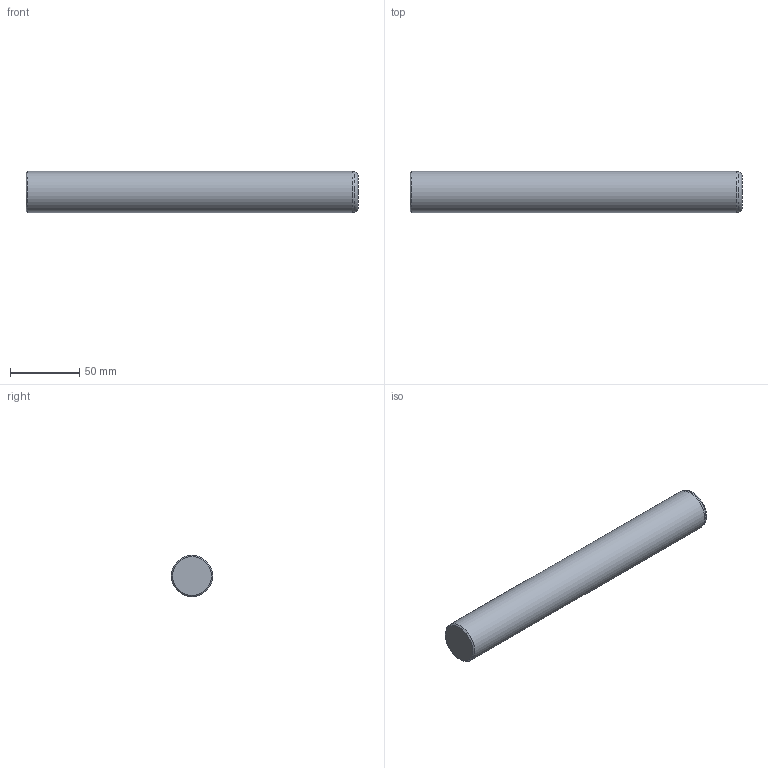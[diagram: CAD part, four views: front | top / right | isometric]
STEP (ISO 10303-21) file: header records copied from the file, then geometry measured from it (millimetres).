
FILE_DESCRIPTION(/* description */ ('Impex Ready, www.impex-ready.pl'),/* implementation_level */ '2;1');
FILE_NAME(/* name */ 'C:\Users\VIKKY\Nextcloud\SM\projekt 10 - części na stronę internetową\Pliki_3D_new\256 CIS Słup\256 CIS_STEP\CIS30240.ipt.step',/* time_stamp */ '2021-12-20T12:43:33+01:00',/* author */ ('SM'),/* organization */ (''),/* preprocessor_version */ 'ST-DEVELOPER v18.1',/* originating_system */ 'Autodesk Inventor 2021',/* authorisation */ '');
FILE_SCHEMA (('AUTOMOTIVE_DESIGN { 1 0 10303 214 3 1 1 }'));
Length unit declared in the file: millimetre
Products named in the file (1): CIS30240
Bounding box: 240 x 30 x 30 mm (x, y, z)
Volume: 169324.9 mm3; surface area: 23819.4 mm2
Topology: 1 solids, 1 shells, 6 faces, 12 edges, 8 vertices
Faces by surface type: cone 2, plane 2, torus 1, cylinder 1
Full cylindrical faces by diameter (mm): 30 x1
Entity records: 239 total; most frequent: DIRECTION 35, CARTESIAN_POINT 27, ORIENTED_EDGE 24, AXIS2_PLACEMENT_3D 16, EDGE_CURVE 12, CIRCLE 9, VERTEX_POINT 8, STYLED_ITEM 7
